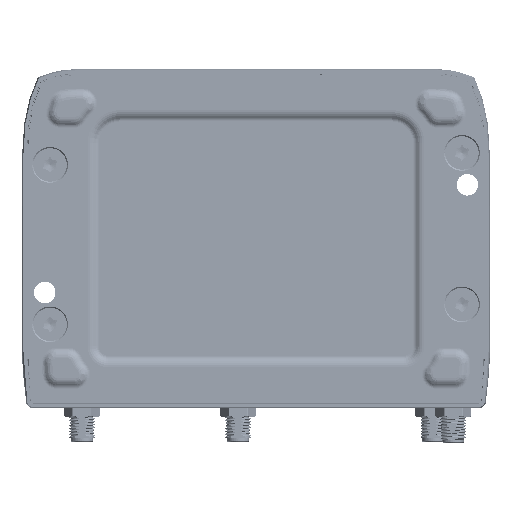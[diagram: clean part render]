
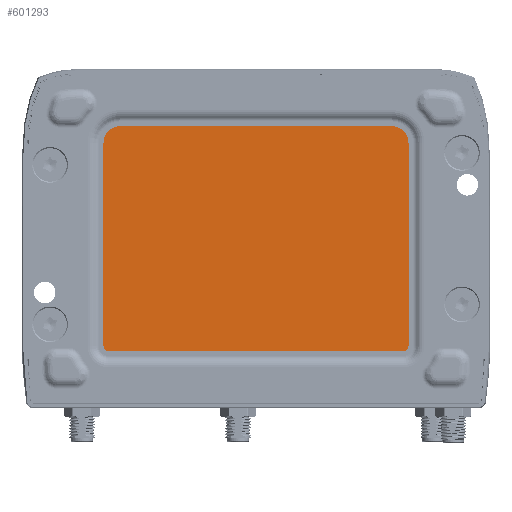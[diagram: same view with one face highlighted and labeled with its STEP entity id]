
A CAD part, front view. The second image highlights one B-rep face of the part: STEP entity #601293.
In plain terms, the highlighted planar face has unit normal (0, -1, 0).
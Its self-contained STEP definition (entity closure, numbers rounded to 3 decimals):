
#601050=CARTESIAN_POINT('',(37.,-32.75,15.5));
#601051=DIRECTION('',(0.,1.,0.));
#601052=DIRECTION('',(1.,0.,0.));
#601053=AXIS2_PLACEMENT_3D('',#601050,#601051,#601052);
#601058=DIRECTION('',(-1.,0.,0.));
#601059=VECTOR('',#601058,74.);
#601060=CARTESIAN_POINT('',(37.,-32.75,14.25));
#601061=LINE('',#601060,#601059);
#601065=CARTESIAN_POINT('',(-37.,-32.75,15.5));
#601066=DIRECTION('',(0.,1.,0.));
#601067=DIRECTION('',(0.,0.,-1.));
#601068=AXIS2_PLACEMENT_3D('',#601065,#601066,#601067);
#601073=DIRECTION('',(0.,0.,1.));
#601074=VECTOR('',#601073,51.);
#601075=CARTESIAN_POINT('',(-38.25,-32.75,15.5));
#601076=LINE('',#601075,#601074);
#601080=CARTESIAN_POINT('',(-34.,-32.75,66.5));
#601081=DIRECTION('',(0.,1.,0.));
#601082=DIRECTION('',(-1.,0.,0.));
#601083=AXIS2_PLACEMENT_3D('',#601080,#601081,#601082);
#601088=DIRECTION('',(1.,0.,0.));
#601089=VECTOR('',#601088,68.);
#601090=CARTESIAN_POINT('',(-34.,-32.75,70.75));
#601091=LINE('',#601090,#601089);
#601095=CARTESIAN_POINT('',(34.,-32.75,66.5));
#601096=DIRECTION('',(0.,1.,0.));
#601097=DIRECTION('',(0.,0.,1.));
#601098=AXIS2_PLACEMENT_3D('',#601095,#601096,#601097);
#601103=DIRECTION('',(0.,0.,-1.));
#601104=VECTOR('',#601103,51.);
#601105=CARTESIAN_POINT('',(38.25,-32.75,66.5));
#601106=LINE('',#601105,#601104);
#601126=CARTESIAN_POINT('',(38.25,-32.75,15.5));
#601127=CARTESIAN_POINT('',(37.,-32.75,14.25));
#601128=VERTEX_POINT('',#601126);
#601129=VERTEX_POINT('',#601127);
#601130=CARTESIAN_POINT('',(-37.,-32.75,14.25));
#601131=VERTEX_POINT('',#601130);
#601132=CARTESIAN_POINT('',(-38.25,-32.75,15.5));
#601133=VERTEX_POINT('',#601132);
#601134=CARTESIAN_POINT('',(-38.25,-32.75,66.5));
#601135=VERTEX_POINT('',#601134);
#601136=CARTESIAN_POINT('',(-34.,-32.75,70.75));
#601137=VERTEX_POINT('',#601136);
#601138=CARTESIAN_POINT('',(34.,-32.75,70.75));
#601139=VERTEX_POINT('',#601138);
#601140=CARTESIAN_POINT('',(38.25,-32.75,66.5));
#601141=VERTEX_POINT('',#601140);
#601278=CARTESIAN_POINT('',(0.,-32.75,0.));
#601279=DIRECTION('',(0.,1.,0.));
#601280=DIRECTION('',(0.,0.,-1.));
#601281=AXIS2_PLACEMENT_3D('',#601278,#601279,#601280);
#601282=PLANE('',#601281);
#601283=ORIENTED_EDGE('',*,*,#601174,.T.);
#601284=ORIENTED_EDGE('',*,*,#601189,.T.);
#601285=ORIENTED_EDGE('',*,*,#601203,.T.);
#601286=ORIENTED_EDGE('',*,*,#601217,.T.);
#601287=ORIENTED_EDGE('',*,*,#601231,.T.);
#601288=ORIENTED_EDGE('',*,*,#601245,.T.);
#601289=ORIENTED_EDGE('',*,*,#601259,.T.);
#601290=ORIENTED_EDGE('',*,*,#601272,.T.);
#601291=EDGE_LOOP('',(#601283,#601284,#601285,#601286,#601287,#601288,#601289,
#601290));
#601292=FACE_OUTER_BOUND('',#601291,.F.);
#601293=ADVANCED_FACE('',(#601292),#601282,.F.);
#601054=CIRCLE('',#601053,1.25);
#601069=CIRCLE('',#601068,1.25);
#601084=CIRCLE('',#601083,4.25);
#601099=CIRCLE('',#601098,4.25);
#601174=EDGE_CURVE('',#601128,#601129,#601054,.T.);
#601189=EDGE_CURVE('',#601129,#601131,#601061,.T.);
#601203=EDGE_CURVE('',#601131,#601133,#601069,.T.);
#601217=EDGE_CURVE('',#601133,#601135,#601076,.T.);
#601231=EDGE_CURVE('',#601135,#601137,#601084,.T.);
#601245=EDGE_CURVE('',#601137,#601139,#601091,.T.);
#601259=EDGE_CURVE('',#601139,#601141,#601099,.T.);
#601272=EDGE_CURVE('',#601141,#601128,#601106,.T.);
